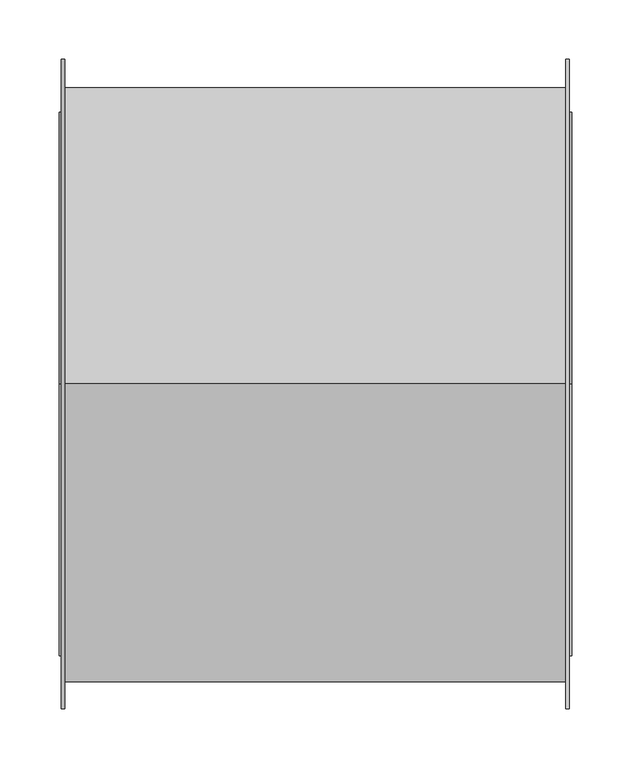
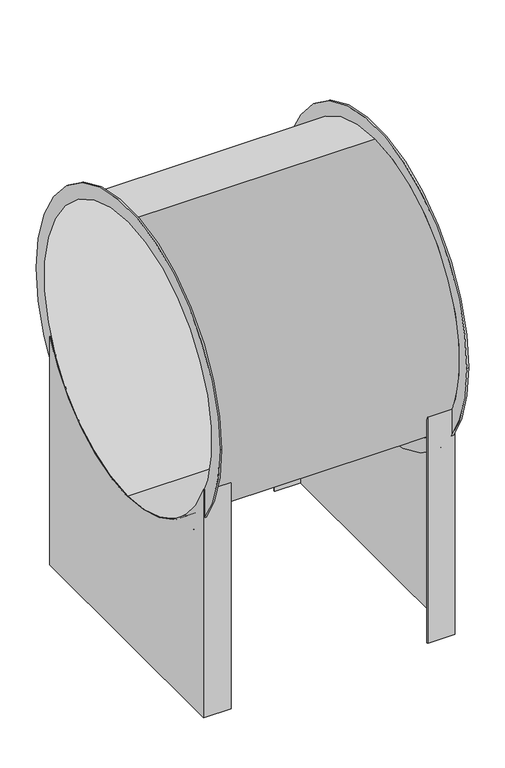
"""IFC4 building model written with IfcOpenShell, lengths in millimetres: proxy geometry, APMV_Вентстандарт_Осевой вентилятор : Б-5-2."""

from ifc_helpers import new_model, si_unit, frame, origin, place, context, project, spatial, polyline, circle_curve, source, transform, mapped, element, save
from ifc_brep_helpers import plane_surface, cylinder_surface, revolved_surface, advanced_brep


def mechanical_equipment_713e034f(model_context):
    return source(origin(), model_context, "Body", "AdvancedBrep", [
        advanced_brep(
        [(-215.0, -275.0, 515.0), (-215.0, 275.0, 515.0), (-215.0, 0.0, 765.0), (-215.0, 0.0, 265.0), (215.0, -275.0, 515.0), (215.0, 275.0, 515.0), (215.0, 0.0, 265.0), (215.0, 0.0, 765.0), (-212.0, -275.0, 515.0), (-212.0, 275.0, 515.0), (-212.0, 0.0, 263.0), (-212.0, 0.0, 767.0), (212.0, -275.0, 515.0), (212.0, 275.0, 515.0), (212.0, 0.0, 767.0), (212.0, 0.0, 263.0), (-212.0, 0.0, 265.0), (212.0, 0.0, 265.0), (212.0, 0.0, 765.0), (-212.0, 0.0, 765.0)],
        [
            (0, 1, circle_curve(frame((-215.0, 0.0, 515.0), z_axis=(-1.0, 0.0, 0.0), x_axis=(0.0, 1.0, 0.0)), 275.0)),
            (1, 0, circle_curve(frame((-215.0, 0.0, 515.0), z_axis=(-1.0, 0.0, 0.0), x_axis=(0.0, 1.0, 0.0)), 275.0)),
            (2, 3, circle_curve(frame((-215.0, 0.0, 515.0), z_axis=(1.0, 0.0, 0.0), x_axis=(0.0, 0.0, 1.0)), 250.0)),
            (3, 2, circle_curve(frame((-215.0, 0.0, 515.0), z_axis=(1.0, 0.0, 0.0), x_axis=(0.0, 0.0, 1.0)), 250.0)),
            (4, 5, circle_curve(frame((215.0, 0.0, 515.0), z_axis=(1.0, 0.0, 0.0), x_axis=(0.0, 1.0, 0.0)), 275.0)),
            (5, 4, circle_curve(frame((215.0, 0.0, 515.0), z_axis=(1.0, 0.0, 0.0), x_axis=(0.0, 1.0, 0.0)), 275.0)),
            (6, 7, circle_curve(frame((215.0, 0.0, 515.0), z_axis=(-1.0, 0.0, 0.0), x_axis=(0.0, 0.0, 1.0)), 250.0)),
            (7, 6, circle_curve(frame((215.0, 0.0, 515.0), z_axis=(-1.0, 0.0, 0.0), x_axis=(0.0, 0.0, 1.0)), 250.0)),
            (8, 9, circle_curve(frame((-212.0, 0.0, 515.0), z_axis=(1.0, 0.0, 0.0), x_axis=(0.0, 1.0, 0.0)), 275.0)),
            (9, 8, circle_curve(frame((-212.0, 0.0, 515.0), z_axis=(1.0, 0.0, 0.0), x_axis=(0.0, 1.0, 0.0)), 275.0)),
            (10, 11, circle_curve(frame((-212.0, 0.0, 515.0), z_axis=(-1.0, 0.0, 0.0), x_axis=(0.0, 0.0, 1.0)), 252.0)),
            (11, 10, circle_curve(frame((-212.0, 0.0, 515.0), z_axis=(-1.0, 0.0, 0.0), x_axis=(0.0, 0.0, 1.0)), 252.0)),
            (9, 1),
            (0, 8),
            (12, 13, circle_curve(frame((212.0, 0.0, 515.0), z_axis=(-1.0, 0.0, 0.0), x_axis=(0.0, 1.0, 0.0)), 275.0)),
            (13, 12, circle_curve(frame((212.0, 0.0, 515.0), z_axis=(-1.0, 0.0, 0.0), x_axis=(0.0, 1.0, 0.0)), 275.0)),
            (14, 15, circle_curve(frame((212.0, 0.0, 515.0), z_axis=(1.0, 0.0, 0.0), x_axis=(0.0, 0.0, 1.0)), 252.0)),
            (15, 14, circle_curve(frame((212.0, 0.0, 515.0), z_axis=(1.0, 0.0, 0.0), x_axis=(0.0, 0.0, 1.0)), 252.0)),
            (12, 4),
            (5, 13),
            (3, 16),
            (16, 17),
            (17, 6),
            (7, 18),
            (18, 19),
            (19, 2),
            (10, 15),
            (14, 11),
        ],
        [
            plane_surface(frame((-215.0, 0.0, 515.0), z_axis=(-1.0, 0.0, 0.0), x_axis=(0.0, -1.0, 0.0))),
            plane_surface(frame((215.0, 0.0, 515.0), z_axis=(1.0, 0.0, 0.0), x_axis=(0.0, -1.0, 0.0))),
            plane_surface(frame((-212.0, 250.0, 515.0), z_axis=(1.0, 0.0, 0.0), x_axis=(0.0, 0.0, -1.0))),
            cylinder_surface(frame((-215.0, 0.0, 515.0), z_axis=(-1.0, 0.0, 0.0), x_axis=(0.0, 1.0, 0.0)), 275.0),
            plane_surface(frame((212.0, 250.0, 515.0), z_axis=(-1.0, 0.0, 0.0), x_axis=(0.0, 0.0, 1.0))),
            cylinder_surface(frame((215.0, 0.0, 515.0), z_axis=(1.0, 0.0, 0.0), x_axis=(0.0, 1.0, 0.0)), 275.0),
            revolved_surface(polyline([(215.0, 0.0, 765.0), (-215.0, 0.0, 765.0)]), (-215.0, 0.0, 515.0), (1.0, 0.0, 0.0)),
            cylinder_surface(frame((-215.0, 0.0, 515.0), z_axis=(-1.0, 0.0, 0.0), x_axis=(0.0, 0.0, 1.0)), 252.0),
        ],
        [
            (0, [[1, 2], [3, 4]]),
            (1, [[5, 6], [7, 8]]),
            (2, [[9, 10], [11, 12]]),
            (3, [[-10, 13, -1, 14]]),
            (3, [[-9, -14, -2, -13]]),
            (4, [[15, 16], [17, 18]]),
            (5, [[-15, 19, -6, 20]]),
            (5, [[-16, -20, -5, -19]]),
            (6, [[21, 22, 23, -8, 24, 25, 26, -4]]),
            (6, [[-21, -3, -26, -25, -24, -7, -23, -22]]),
            (7, [[-11, 27, -17, 28]]),
            (7, [[-12, -28, -18, -27]]),
        ],
    ),
        advanced_brep(
        [(170.0, 230.0, 0.0), (217.0, 230.0, 0.0), (217.0, -230.0, 0.0), (170.0, -230.0, 0.0), (170.0, -228.0, 0.0), (215.0, -228.0, 0.0), (215.0, 228.0, 0.0), (170.0, 228.0, 0.0), (170.0, 230.0, 417.0204103), (217.0, 230.0, 417.0204103), (217.0, 0.0, 265.0), (217.0, -230.0, 417.0204103), (170.0, -230.0, 417.0204103), (170.0, -228.0, 412.4524501), (215.0, -228.0, 412.4524501), (215.0, 0.0, 265.0), (215.0, 228.0, 412.4524501), (170.0, 228.0, 412.4524501)],
        [
            (0, 1),
            (1, 2),
            (2, 3),
            (3, 4),
            (4, 5),
            (5, 6),
            (6, 7),
            (7, 0),
            (0, 8),
            (8, 9),
            (9, 1),
            (9, 10, circle_curve(frame((217.0, 0.0, 515.0), z_axis=(-1.0, 0.0, 0.0), x_axis=(0.0, 0.0, 1.0)), 250.0)),
            (10, 11, circle_curve(frame((217.0, 0.0, 515.0), z_axis=(-1.0, 0.0, 0.0), x_axis=(0.0, 0.0, 1.0)), 250.0)),
            (11, 2),
            (11, 12),
            (12, 3),
            (12, 13, circle_curve(frame((170.0, 0.0, 515.0), z_axis=(1.0, 0.0, 0.0), x_axis=(0.0, 0.0, 1.0)), 250.0)),
            (13, 4),
            (13, 14),
            (14, 5),
            (14, 15, circle_curve(frame((215.0, 0.0, 515.0), z_axis=(1.0, 0.0, 0.0), x_axis=(0.0, 0.0, 1.0)), 250.0)),
            (15, 16, circle_curve(frame((215.0, 0.0, 515.0), z_axis=(1.0, 0.0, 0.0), x_axis=(0.0, 0.0, 1.0)), 250.0)),
            (16, 6),
            (16, 17),
            (17, 7),
            (17, 8, circle_curve(frame((170.0, 0.0, 515.0), z_axis=(1.0, 0.0, 0.0), x_axis=(0.0, 0.0, 1.0)), 250.0)),
            (10, 15),
        ],
        [
            plane_surface(frame((170.0, 230.0, 0.0), z_axis=(0.0, 0.0, -1.0), x_axis=(0.0, 1.0, 0.0))),
            plane_surface(frame((217.0, 230.0, 515.0), z_axis=(0.0, 1.0, 0.0), x_axis=(0.0, 0.0, -1.0))),
            plane_surface(frame((217.0, -230.0, 515.0), z_axis=(1.0, 0.0, 0.0), x_axis=(0.0, 0.0, -1.0))),
            plane_surface(frame((170.0, -230.0, 515.0), z_axis=(0.0, -1.0, 0.0), x_axis=(0.0, 0.0, -1.0))),
            plane_surface(frame((170.0, -228.0, 515.0), z_axis=(-1.0, 0.0, 0.0), x_axis=(0.0, 0.0, -1.0))),
            plane_surface(frame((215.0, -228.0, 515.0), z_axis=(0.0, 1.0, 0.0), x_axis=(0.0, 0.0, -1.0))),
            plane_surface(frame((215.0, 228.0, 515.0), z_axis=(-1.0, 0.0, 0.0), x_axis=(0.0, 0.0, -1.0))),
            plane_surface(frame((170.0, 228.0, 515.0), z_axis=(0.0, -1.0, 0.0), x_axis=(0.0, 0.0, -1.0))),
            plane_surface(frame((170.0, 230.0, 515.0), z_axis=(-1.0, 0.0, 0.0), x_axis=(0.0, 0.0, -1.0))),
            revolved_surface(polyline([(170.0, 0.0, 765.0), (217.0, 0.0, 765.0)]), (-217.5, 0.0, 515.0), (-1.0, 0.0, 0.0)),
        ],
        [
            (0, [[1, 2, 3, 4, 5, 6, 7, 8]]),
            (1, [[-1, 9, 10, 11]]),
            (2, [[-2, -11, 12, 13, 14]]),
            (3, [[-3, -14, 15, 16]]),
            (4, [[-4, -16, 17, 18]]),
            (5, [[-5, -18, 19, 20]]),
            (6, [[-6, -20, 21, 22, 23]]),
            (7, [[-7, -23, 24, 25]]),
            (8, [[-8, -25, 26, -9]]),
            (9, [[27, -21, -19, -17, -15, -13]]),
            (9, [[-27, -12, -10, -26, -24, -22]]),
        ],
    ),
        advanced_brep(
        [(-170.0, 230.0, 0.0), (-170.0, 228.0, 0.0), (-215.0, 228.0, 0.0), (-215.0, -228.0, 0.0), (-170.0, -228.0, 0.0), (-170.0, -230.0, 0.0), (-217.0, -230.0, 0.0), (-217.0, 230.0, 0.0), (-217.0, 230.0, 417.0204103), (-170.0, 230.0, 417.0204103), (-217.0, -230.0, 417.0204103), (-217.0, 0.0, 265.0), (-170.0, -230.0, 417.0204103), (-170.0, -228.0, 412.4524501), (-215.0, -228.0, 412.4524501), (-215.0, 228.0, 412.4524501), (-215.0, 0.0, 265.0), (-170.0, 228.0, 412.4524501)],
        [
            (0, 1),
            (1, 2),
            (2, 3),
            (3, 4),
            (4, 5),
            (5, 6),
            (6, 7),
            (7, 0),
            (7, 8),
            (8, 9),
            (9, 0),
            (6, 10),
            (10, 11, circle_curve(frame((-217.0, 0.0, 515.0), z_axis=(1.0, 0.0, 0.0), x_axis=(0.0, 0.0, 1.0)), 250.0)),
            (11, 8, circle_curve(frame((-217.0, 0.0, 515.0), z_axis=(1.0, 0.0, 0.0), x_axis=(0.0, 0.0, 1.0)), 250.0)),
            (5, 12),
            (12, 10),
            (4, 13),
            (13, 12, circle_curve(frame((-170.0, 0.0, 515.0), z_axis=(-1.0, 0.0, 0.0), x_axis=(0.0, 0.0, 1.0)), 250.0)),
            (3, 14),
            (14, 13),
            (2, 15),
            (15, 16, circle_curve(frame((-215.0, 0.0, 515.0), z_axis=(-1.0, 0.0, 0.0), x_axis=(0.0, 0.0, 1.0)), 250.0)),
            (16, 14, circle_curve(frame((-215.0, 0.0, 515.0), z_axis=(-1.0, 0.0, 0.0), x_axis=(0.0, 0.0, 1.0)), 250.0)),
            (1, 17),
            (17, 15),
            (9, 17, circle_curve(frame((-170.0, 0.0, 515.0), z_axis=(-1.0, 0.0, 0.0), x_axis=(0.0, 0.0, 1.0)), 250.0)),
            (16, 11),
        ],
        [
            plane_surface(frame((-217.0, 230.0, 0.0), z_axis=(0.0, 0.0, -1.0), x_axis=(1.0, 0.0, 0.0))),
            plane_surface(frame((-170.0, 230.0, 515.0), z_axis=(0.0, 1.0, 0.0), x_axis=(0.0, 0.0, -1.0))),
            plane_surface(frame((-217.0, 230.0, 515.0), z_axis=(-1.0, 0.0, 0.0), x_axis=(0.0, 0.0, -1.0))),
            plane_surface(frame((-217.0, -230.0, 515.0), z_axis=(0.0, -1.0, 0.0), x_axis=(0.0, 0.0, -1.0))),
            plane_surface(frame((-170.0, -230.0, 515.0), z_axis=(1.0, 0.0, 0.0), x_axis=(0.0, 0.0, -1.0))),
            plane_surface(frame((-170.0, -228.0, 515.0), z_axis=(0.0, 1.0, 0.0), x_axis=(0.0, 0.0, -1.0))),
            plane_surface(frame((-215.0, -228.0, 515.0), z_axis=(1.0, 0.0, 0.0), x_axis=(0.0, 0.0, -1.0))),
            plane_surface(frame((-215.0, 228.0, 515.0), z_axis=(0.0, -1.0, 0.0), x_axis=(0.0, 0.0, -1.0))),
            plane_surface(frame((-170.0, 228.0, 515.0), z_axis=(1.0, 0.0, 0.0), x_axis=(0.0, 0.0, -1.0))),
            revolved_surface(polyline([(-217.0, 0.0, 765.0), (-170.0, 0.0, 765.0)]), (-217.5, 0.0, 515.0), (-1.0, 0.0, 0.0)),
        ],
        [
            (0, [[1, 2, 3, 4, 5, 6, 7, 8]]),
            (1, [[-8, 9, 10, 11]]),
            (2, [[-7, 12, 13, 14, -9]]),
            (3, [[-6, 15, 16, -12]]),
            (4, [[-5, 17, 18, -15]]),
            (5, [[-4, 19, 20, -17]]),
            (6, [[-3, 21, 22, 23, -19]]),
            (7, [[-2, 24, 25, -21]]),
            (8, [[-1, -11, 26, -24]]),
            (9, [[27, -13, -16, -18, -20, -23]]),
            (9, [[-27, -22, -25, -26, -10, -14]]),
        ],
    ),
    ])


if __name__ == "__main__":
    model = new_model("IFC4")
    model_context = context("Model", 3, world=origin())
    ifc_project = project(units=[si_unit("LENGTHUNIT", "METRE", prefix="MILLI")], contexts=[model_context])
    site = spatial("IfcSite", under=ifc_project)
    building = spatial("IfcBuilding", under=site)
    placement = place(None, origin())
    mechanical_equipment_shape = mechanical_equipment_713e034f(model_context)
    element("IfcBuildingElementProxy", 1, Name="APMV_Вентстандарт_Осевой вентилятор : Б-5-2", ObjectType="APMV_Вентстандарт_Осевой вентилятор : Б-5-2", at=placement, inside=building, context=model_context, shape_type="MappedRepresentation", body=[
        mapped(mechanical_equipment_shape, transform((0.0, 0.0, 0.0), x_axis=(1.0, 0.0, 0.0), y_axis=(0.0, 1.0, 0.0), z_axis=(0.0, 0.0, 1.0))),
    ])
    save(model, "model.ifc")
